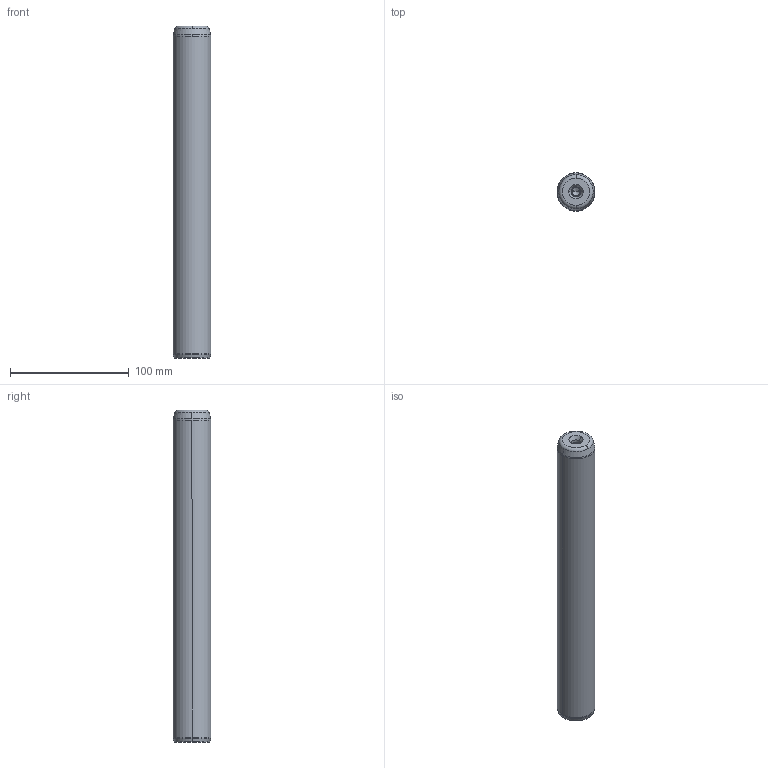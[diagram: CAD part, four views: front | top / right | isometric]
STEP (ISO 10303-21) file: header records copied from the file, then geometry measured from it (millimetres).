
FILE_DESCRIPTION((''),'2;1');
FILE_NAME('P10_032_280.stp','2008-12-23T15:05:08',(''),(''),'Mechanical Desktop 2009','Mechanical Desktop 2009',', , ');
FILE_SCHEMA(('CONFIG_CONTROL_DESIGN'));
Length unit declared in the file: millimetre
Products named in the file (5): Product; ProductAA; blmdl1; ProductA; blmdl1A
Assembly tree (2 placements, depth 3):
  Product
    ProductAA
      blmdl1
  ProductA
  blmdl1A
Bounding box: 32 x 32 x 280 mm (x, y, z)
Volume: 222964.7 mm3; surface area: 29904.6 mm2
Topology: 1 solids, 1 shells, 26 faces, 66 edges, 41 vertices
Faces by surface type: cone 10, torus 8, cylinder 6, plane 2
Entity records: 1012 total; most frequent: DIRECTION 170, CARTESIAN_POINT 134, ORIENTED_EDGE 128, AXIS2_PLACEMENT_3D 77, EDGE_CURVE 64, CIRCLE 48, VERTEX_POINT 41, EDGE_LOOP 27
